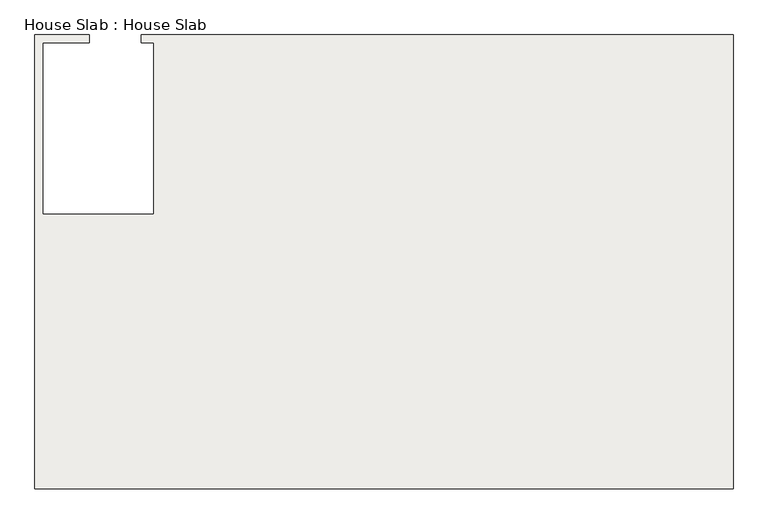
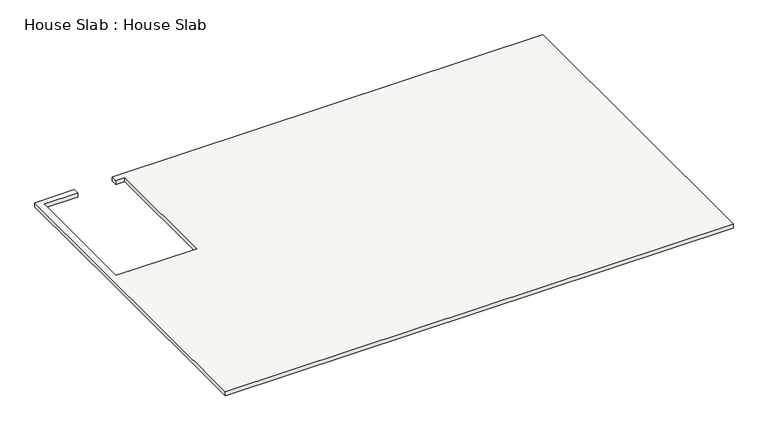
"""IFC4 building model written with IfcOpenShell, lengths in millimetres: slab geometry, House Slab : House Slab."""

from ifc_helpers import new_model, si_unit, origin, place, context, project, spatial, faceted_brep, source, transform, mapped, element, save


def house_slab_house_slab_cbe13edb(model_context):
    return source(origin(), model_context, "Body", "Brep", [
        faceted_brep([(-11405.5178637, 3348.5349287, 0.0), (-11405.5178637, 3208.8349287, 0.0), (-11189.6178637, 3208.8349287, 0.0), (-11189.6178637, 3100.8849287, 0.0), (-11189.6178637, 217.9849287, 0.0), (-11291.2178637, 217.9849287, 0.0), (-13126.3678637, 217.9849287, 0.0), (-13126.3678637, 3208.8349287, 0.0), (-12319.9178637, 3208.8349287, 0.0), (-12319.9178637, 3348.5349287, 0.0), (-13266.0678637, 3348.5349287, 0.0), (-13266.0678637, -4576.2650713, 0.0), (-1074.0678637, -4576.2650713, 0.0), (-1074.0678637, 3348.5349287, 0.0), (-11405.5178637, 3348.5349287, -101.6), (-11049.9178637, 3348.5349287, -101.6), (-1074.0678637, 3348.5349287, -101.6), (-1074.0678637, -4576.2650713, -101.6), (-13266.0678637, -4576.2650713, -101.6), (-13266.0678637, 78.2849287, -101.6), (-13266.0678637, 3348.5349287, -101.6), (-12319.9178637, 3348.5349287, -101.6), (-12319.9178637, 3208.8349287, -101.6), (-13126.3678637, 3208.8349287, -101.6), (-13126.3678637, 217.9849287, -101.6), (-11189.6178637, 217.9849287, -101.6), (-11189.6178637, 3208.8349287, -101.6), (-11405.5178637, 3208.8349287, -101.6)], [[[0, 1, 2, 3, 4, 5, 6, 7, 8, 9, 10, 11, 12, 13]], [[14, 15, 16, 17, 18, 19, 20, 21, 22, 23, 24, 25, 26, 27]], [[1, 0, 14, 27]], [[2, 1, 27, 26]], [[4, 3, 2, 26, 25]], [[6, 5, 4, 25, 24]], [[7, 6, 24, 23]], [[8, 7, 23, 22]], [[9, 8, 22, 21]], [[10, 9, 21, 20]], [[11, 10, 20, 19, 18]], [[12, 11, 18, 17]], [[13, 12, 17, 16]], [[0, 13, 16, 15, 14]]]),
    ])


if __name__ == "__main__":
    model = new_model("IFC4")
    model_context = context("Model", 3, world=origin())
    ifc_project = project(units=[si_unit("LENGTHUNIT", "METRE", prefix="MILLI")], contexts=[model_context])
    site = spatial("IfcSite", under=ifc_project)
    building = spatial("IfcBuilding", under=site)
    placement = place(None, origin())
    house_slab_house_slab_shape = house_slab_house_slab_cbe13edb(model_context)
    element("IfcSlab", 1, ObjectType="House Slab : House Slab", at=placement, inside=building, context=model_context, shape_type="MappedRepresentation", body=[
        mapped(house_slab_house_slab_shape, transform((0.0, 0.0, 0.0), x_axis=(1.0, 0.0, 0.0), y_axis=(0.0, 1.0, 0.0), z_axis=(0.0, 0.0, 1.0))),
    ])
    save(model, "model.ifc")
